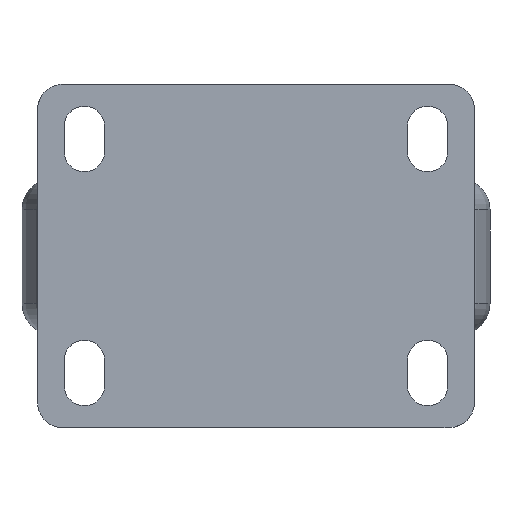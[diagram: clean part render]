
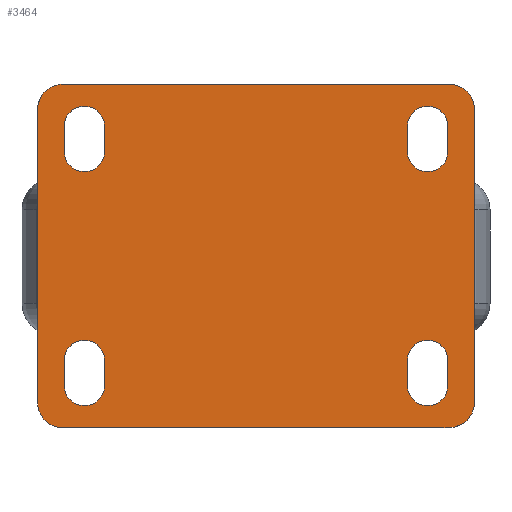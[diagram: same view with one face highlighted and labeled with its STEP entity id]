
A CAD part, top view. The second image highlights one B-rep face of the part: STEP entity #3464.
In plain terms, the highlighted planar face has unit normal (0, 0, 1).
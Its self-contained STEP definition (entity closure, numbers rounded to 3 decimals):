
#244=(
BOUNDED_CURVE()
B_SPLINE_CURVE(3,(#21105,#21106,#21107,#21108,#21109,#21110,#21111,#21112,
#21113,#21114,#21115,#21116,#21117,#21118,#21119,#21120),.UNSPECIFIED.,.F.,
 .F.)
B_SPLINE_CURVE_WITH_KNOTS((4,3,3,3,3,4),(0.,0.342,0.383,
0.746,0.779,1.),.UNSPECIFIED.)
CURVE()
GEOMETRIC_REPRESENTATION_ITEM()
RATIONAL_B_SPLINE_CURVE((0.586,0.586,0.586,
0.586,0.471,0.471,0.586,
0.586,0.586,0.586,0.471,
0.471,0.586,0.586,0.586,
0.586))
REPRESENTATION_ITEM('')
);
#247=(
BOUNDED_CURVE()
B_SPLINE_CURVE(3,(#21159,#21160,#21161,#21162,#21163,#21164,#21165,#21166,
#21167,#21168),.UNSPECIFIED.,.F.,.F.)
B_SPLINE_CURVE_WITH_KNOTS((4,3,3,4),(0.,0.094,0.924,
1.),.UNSPECIFIED.)
CURVE()
GEOMETRIC_REPRESENTATION_ITEM()
RATIONAL_B_SPLINE_CURVE((0.586,0.471,0.471,
0.586,0.586,0.586,0.586,
0.471,0.471,0.586))
REPRESENTATION_ITEM('')
);
#1867=PLANE('',#14743);
#2353=LINE('',#21194,#2930);
#2358=LINE('',#21208,#2935);
#2363=LINE('',#21226,#2940);
#2366=LINE('',#21235,#2943);
#2371=LINE('',#21250,#2948);
#2374=LINE('',#21259,#2951);
#2377=LINE('',#21266,#2954);
#2382=LINE('',#21280,#2959);
#2930=VECTOR('',#16673,1.);
#2935=VECTOR('',#16686,1.);
#2940=VECTOR('',#16705,1.);
#2943=VECTOR('',#16716,1.);
#2948=VECTOR('',#16729,1.);
#2951=VECTOR('',#16740,1.);
#2954=VECTOR('',#16745,1.);
#2959=VECTOR('',#16758,1.);
#3464=ADVANCED_FACE('',(#4484,#4485,#4486,#4487,#4488),#1867,.F.);
#4484=FACE_BOUND('',#4763,.T.);
#4485=FACE_BOUND('',#4764,.T.);
#4486=FACE_BOUND('',#4765,.T.);
#4487=FACE_BOUND('',#4766,.T.);
#4488=FACE_BOUND('',#4767,.T.);
#4763=EDGE_LOOP('',(#6246,#6247,#6248,#6249));
#4764=EDGE_LOOP('',(#6250,#6251,#6252,#6253));
#4765=EDGE_LOOP('',(#6254,#6255,#6256,#6257));
#4766=EDGE_LOOP('',(#6258,#6259,#6260,#6261));
#4767=EDGE_LOOP('',(#6262,#6263));
#6246=ORIENTED_EDGE('',*,*,#11820,.F.);
#6247=ORIENTED_EDGE('',*,*,#11821,.F.);
#6248=ORIENTED_EDGE('',*,*,#11813,.F.);
#6249=ORIENTED_EDGE('',*,*,#11817,.F.);
#6250=ORIENTED_EDGE('',*,*,#11808,.F.);
#6251=ORIENTED_EDGE('',*,*,#11810,.T.);
#6252=ORIENTED_EDGE('',*,*,#11801,.T.);
#6253=ORIENTED_EDGE('',*,*,#11805,.T.);
#6254=ORIENTED_EDGE('',*,*,#11796,.T.);
#6255=ORIENTED_EDGE('',*,*,#11798,.F.);
#6256=ORIENTED_EDGE('',*,*,#11789,.F.);
#6257=ORIENTED_EDGE('',*,*,#11793,.F.);
#6258=ORIENTED_EDGE('',*,*,#11784,.F.);
#6259=ORIENTED_EDGE('',*,*,#11786,.F.);
#6260=ORIENTED_EDGE('',*,*,#11777,.F.);
#6261=ORIENTED_EDGE('',*,*,#11781,.F.);
#6262=ORIENTED_EDGE('',*,*,#11773,.T.);
#6263=ORIENTED_EDGE('',*,*,#11769,.T.);
#10315=VERTEX_POINT('',#21121);
#10316=VERTEX_POINT('',#21122);
#10321=VERTEX_POINT('',#21193);
#10322=VERTEX_POINT('',#21195);
#10324=VERTEX_POINT('',#21201);
#10326=VERTEX_POINT('',#21207);
#10329=VERTEX_POINT('',#21217);
#10330=VERTEX_POINT('',#21219);
#10332=VERTEX_POINT('',#21225);
#10334=VERTEX_POINT('',#21231);
#10337=VERTEX_POINT('',#21241);
#10338=VERTEX_POINT('',#21243);
#10340=VERTEX_POINT('',#21249);
#10342=VERTEX_POINT('',#21255);
#10345=VERTEX_POINT('',#21265);
#10346=VERTEX_POINT('',#21267);
#10348=VERTEX_POINT('',#21273);
#10350=VERTEX_POINT('',#21279);
#11769=EDGE_CURVE('',#10315,#10316,#244,.T.);
#11773=EDGE_CURVE('',#10316,#10315,#247,.T.);
#11777=EDGE_CURVE('',#10321,#10322,#2353,.T.);
#11781=EDGE_CURVE('',#10324,#10321,#13701,.T.);
#11784=EDGE_CURVE('',#10326,#10324,#2358,.T.);
#11786=EDGE_CURVE('',#10322,#10326,#13703,.T.);
#11789=EDGE_CURVE('',#10329,#10330,#13705,.T.);
#11793=EDGE_CURVE('',#10332,#10329,#2363,.T.);
#11796=EDGE_CURVE('',#10332,#10334,#13707,.T.);
#11798=EDGE_CURVE('',#10330,#10334,#2366,.T.);
#11801=EDGE_CURVE('',#10338,#10337,#13709,.T.);
#11805=EDGE_CURVE('',#10337,#10340,#2371,.T.);
#11808=EDGE_CURVE('',#10342,#10340,#13711,.T.);
#11810=EDGE_CURVE('',#10342,#10338,#2374,.T.);
#11813=EDGE_CURVE('',#10345,#10346,#2377,.T.);
#11817=EDGE_CURVE('',#10348,#10345,#13713,.T.);
#11820=EDGE_CURVE('',#10350,#10348,#2382,.T.);
#11821=EDGE_CURVE('',#10346,#10350,#13714,.T.);
#13701=CIRCLE('',#14715,6.5);
#13703=CIRCLE('',#14719,6.5);
#13705=CIRCLE('',#14722,6.5);
#13707=CIRCLE('',#14726,6.5);
#13709=CIRCLE('',#14730,6.5);
#13711=CIRCLE('',#14734,6.5);
#13713=CIRCLE('',#14739,6.5);
#13714=CIRCLE('',#14742,6.5);
#14715=AXIS2_PLACEMENT_3D('',#21202,#16680,#16681);
#14719=AXIS2_PLACEMENT_3D('',#21211,#16691,#16692);
#14722=AXIS2_PLACEMENT_3D('',#21218,#16698,#16699);
#14726=AXIS2_PLACEMENT_3D('',#21232,#16711,#16712);
#14730=AXIS2_PLACEMENT_3D('',#21242,#16722,#16723);
#14734=AXIS2_PLACEMENT_3D('',#21256,#16735,#16736);
#14739=AXIS2_PLACEMENT_3D('',#21274,#16752,#16753);
#14742=AXIS2_PLACEMENT_3D('',#21282,#16761,#16762);
#14743=AXIS2_PLACEMENT_3D('',#21283,#16763,#16764);
#16673=DIRECTION('',(0.,1.,0.));
#16680=DIRECTION('',(0.,0.,1.));
#16681=DIRECTION('',(1.,0.,0.));
#16686=DIRECTION('',(0.,-1.,0.));
#16691=DIRECTION('',(0.,0.,1.));
#16692=DIRECTION('',(1.,0.,0.));
#16698=DIRECTION('',(0.,0.,1.));
#16699=DIRECTION('',(1.,0.,0.));
#16705=DIRECTION('',(0.,1.,0.));
#16711=DIRECTION('',(0.,0.,-1.));
#16712=DIRECTION('',(1.,0.,0.));
#16716=DIRECTION('',(0.,-1.,0.));
#16722=DIRECTION('',(0.,0.,-1.));
#16723=DIRECTION('',(1.,0.,0.));
#16729=DIRECTION('',(0.,-1.,0.));
#16735=DIRECTION('',(0.,0.,1.));
#16736=DIRECTION('',(1.,0.,0.));
#16740=DIRECTION('',(0.,1.,0.));
#16745=DIRECTION('',(0.,1.,0.));
#16752=DIRECTION('',(0.,0.,1.));
#16753=DIRECTION('',(1.,0.,0.));
#16758=DIRECTION('',(0.,-1.,0.));
#16761=DIRECTION('',(0.,0.,1.));
#16762=DIRECTION('',(1.,0.,0.));
#16763=DIRECTION('',(0.,0.,-1.));
#16764=DIRECTION('',(-1.,0.,0.));
#21105=CARTESIAN_POINT('',(70.,-47.,100.5));
#21106=CARTESIAN_POINT('',(70.,-15.667,100.5));
#21107=CARTESIAN_POINT('',(70.,15.667,100.5));
#21108=CARTESIAN_POINT('',(70.,47.,100.5));
#21109=CARTESIAN_POINT('',(70.,51.686,100.5));
#21110=CARTESIAN_POINT('',(66.686,55.,100.5));
#21111=CARTESIAN_POINT('',(62.,55.,100.5));
#21112=CARTESIAN_POINT('',(20.667,55.,100.5));
#21113=CARTESIAN_POINT('',(-20.667,55.,100.5));
#21114=CARTESIAN_POINT('',(-62.,55.,100.5));
#21115=CARTESIAN_POINT('',(-66.686,55.,100.5));
#21116=CARTESIAN_POINT('',(-70.,51.686,100.5));
#21117=CARTESIAN_POINT('',(-70.,47.,100.5));
#21118=CARTESIAN_POINT('',(-70.,15.667,100.5));
#21119=CARTESIAN_POINT('',(-70.,-15.667,100.5));
#21120=CARTESIAN_POINT('',(-70.,-47.,100.5));
#21121=CARTESIAN_POINT('',(70.,-47.,100.5));
#21122=CARTESIAN_POINT('',(-70.,-47.,100.5));
#21159=CARTESIAN_POINT('',(-70.,-47.,100.5));
#21160=CARTESIAN_POINT('',(-70.,-51.686,100.5));
#21161=CARTESIAN_POINT('',(-66.686,-55.,100.5));
#21162=CARTESIAN_POINT('',(-62.,-55.,100.5));
#21163=CARTESIAN_POINT('',(-20.667,-55.,100.5));
#21164=CARTESIAN_POINT('',(20.667,-55.,100.5));
#21165=CARTESIAN_POINT('',(62.,-55.,100.5));
#21166=CARTESIAN_POINT('',(66.686,-55.,100.5));
#21167=CARTESIAN_POINT('',(70.,-51.686,100.5));
#21168=CARTESIAN_POINT('',(70.,-47.,100.5));
#21193=CARTESIAN_POINT('',(61.5,-41.5,100.5));
#21194=CARTESIAN_POINT('',(61.5,-55.,100.5));
#21195=CARTESIAN_POINT('',(61.5,-33.5,100.5));
#21201=CARTESIAN_POINT('',(48.5,-41.5,100.5));
#21202=CARTESIAN_POINT('',(55.,-41.5,100.5));
#21207=CARTESIAN_POINT('',(48.5,-33.5,100.5));
#21208=CARTESIAN_POINT('',(48.5,-55.,100.5));
#21211=CARTESIAN_POINT('',(55.,-33.5,100.5));
#21217=CARTESIAN_POINT('',(61.5,41.5,100.5));
#21218=CARTESIAN_POINT('',(55.,41.5,100.5));
#21219=CARTESIAN_POINT('',(48.5,41.5,100.5));
#21225=CARTESIAN_POINT('',(61.5,33.5,100.5));
#21226=CARTESIAN_POINT('',(61.5,-55.,100.5));
#21231=CARTESIAN_POINT('',(48.5,33.5,100.5));
#21232=CARTESIAN_POINT('',(55.,33.5,100.5));
#21235=CARTESIAN_POINT('',(48.5,-55.,100.5));
#21241=CARTESIAN_POINT('',(-48.5,41.5,100.5));
#21242=CARTESIAN_POINT('',(-55.,41.5,100.5));
#21243=CARTESIAN_POINT('',(-61.5,41.5,100.5));
#21249=CARTESIAN_POINT('',(-48.5,33.5,100.5));
#21250=CARTESIAN_POINT('',(-48.5,-55.,100.5));
#21255=CARTESIAN_POINT('',(-61.5,33.5,100.5));
#21256=CARTESIAN_POINT('',(-55.,33.5,100.5));
#21259=CARTESIAN_POINT('',(-61.5,-55.,100.5));
#21265=CARTESIAN_POINT('',(-48.5,-41.5,100.5));
#21266=CARTESIAN_POINT('',(-48.5,-55.,100.5));
#21267=CARTESIAN_POINT('',(-48.5,-33.5,100.5));
#21273=CARTESIAN_POINT('',(-61.5,-41.5,100.5));
#21274=CARTESIAN_POINT('',(-55.,-41.5,100.5));
#21279=CARTESIAN_POINT('',(-61.5,-33.5,100.5));
#21280=CARTESIAN_POINT('',(-61.5,-55.,100.5));
#21282=CARTESIAN_POINT('',(-55.,-33.5,100.5));
#21283=CARTESIAN_POINT('',(-1.373,-55.,100.5));
